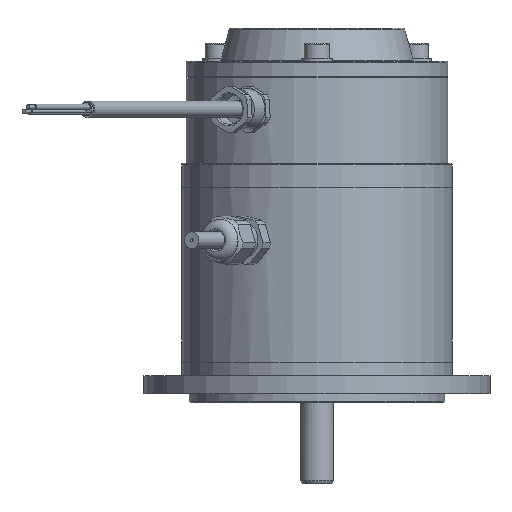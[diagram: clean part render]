
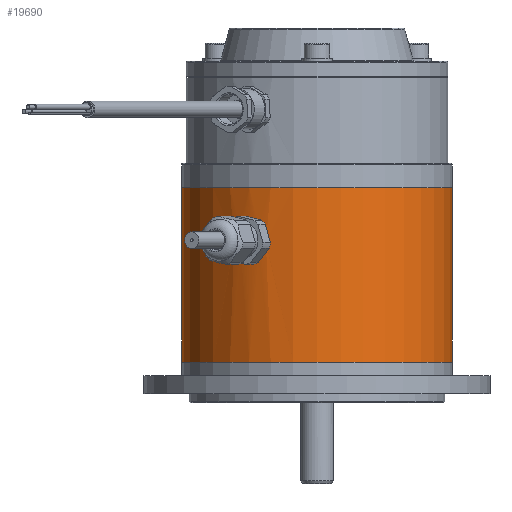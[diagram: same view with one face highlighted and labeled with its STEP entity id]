
A CAD part, left-side view. The second image highlights one B-rep face of the part: STEP entity #19690.
In plain terms, the highlighted cylindrical face has radius 45 mm (diameter 90 mm), a full revolution.
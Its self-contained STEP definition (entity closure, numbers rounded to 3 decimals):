
#381=B_SPLINE_CURVE_WITH_KNOTS('',3,(#39688,#39689,#39690,#39691,#39692,
#39693,#39694,#39695,#39696,#39697,#39698,#39699,#39700,#39701,#39702,#39703,
#39704,#39705,#39706),.UNSPECIFIED.,.T.,.F.,(1,1,1,1,1,1,1,1,1,1,1,1,1,
1,1,1,1,1,1,1,1,1,1),(-0.007,-0.005,-0.002,
0.,0.002,0.005,0.007,0.01,
0.012,0.015,0.017,0.02,
0.022,0.024,0.027,0.029,
0.032,0.034,0.037,0.039,
0.042,0.044,0.046),.UNSPECIFIED.);
#2823=CYLINDRICAL_SURFACE('',#21226,45.);
#3832=ORIENTED_EDGE('',*,*,#8545,.F.);
#3833=ORIENTED_EDGE('',*,*,#8544,.T.);
#3834=ORIENTED_EDGE('',*,*,#8538,.F.);
#8538=EDGE_CURVE('',#14027,#14027,#381,.T.);
#8544=EDGE_CURVE('',#14033,#14033,#10940,.T.);
#8545=EDGE_CURVE('',#14034,#14034,#10941,.T.);
#10940=CIRCLE('',#21225,45.);
#10941=CIRCLE('',#21227,45.);
#12516=EDGE_LOOP('',(#3832));
#12517=EDGE_LOOP('',(#3833));
#12518=EDGE_LOOP('',(#3834));
#14027=VERTEX_POINT('',#39707);
#14033=VERTEX_POINT('',#39741);
#14034=VERTEX_POINT('',#39744);
#15730=FACE_BOUND('',#12516,.T.);
#15731=FACE_BOUND('',#12517,.T.);
#15732=FACE_BOUND('',#12518,.T.);
#19690=ADVANCED_FACE('',(#15730,#15731,#15732),#2823,.T.);
#21225=AXIS2_PLACEMENT_3D('',#39740,#24352,#24353);
#21226=AXIS2_PLACEMENT_3D('',#39742,#24354,#24355);
#21227=AXIS2_PLACEMENT_3D('',#39743,#24356,#24357);
#24352=DIRECTION('',(0.,0.,-1.));
#24353=DIRECTION('',(-0.5,-0.866,0.));
#24354=DIRECTION('',(0.,0.,-1.));
#24355=DIRECTION('',(-0.5,-0.866,0.));
#24356=DIRECTION('',(0.,0.,-1.));
#24357=DIRECTION('',(-0.5,-0.866,0.));
#39688=CARTESIAN_POINT('',(-41.595,17.179,24.534));
#39689=CARTESIAN_POINT('',(-41.78,16.715,27.002));
#39690=CARTESIAN_POINT('',(-41.596,17.177,29.458));
#39691=CARTESIAN_POINT('',(-41.05,18.465,31.535));
#39692=CARTESIAN_POINT('',(-40.159,20.348,32.923));
#39693=CARTESIAN_POINT('',(-38.993,22.508,33.413));
#39694=CARTESIAN_POINT('',(-37.704,24.6,32.925));
#39695=CARTESIAN_POINT('',(-36.517,26.317,31.536));
#39696=CARTESIAN_POINT('',(-35.673,27.435,29.457));
#39697=CARTESIAN_POINT('',(-35.366,27.824,27.002));
#39698=CARTESIAN_POINT('',(-35.672,27.437,24.547));
#39699=CARTESIAN_POINT('',(-36.513,26.321,22.47));
#39700=CARTESIAN_POINT('',(-37.698,24.61,21.079));
#39701=CARTESIAN_POINT('',(-38.989,22.517,20.586));
#39702=CARTESIAN_POINT('',(-40.157,20.352,21.075));
#39703=CARTESIAN_POINT('',(-41.048,18.468,22.464));
#39704=CARTESIAN_POINT('',(-41.595,17.179,24.534));
#39705=CARTESIAN_POINT('',(-41.78,16.715,27.002));
#39706=CARTESIAN_POINT('',(-41.596,17.177,29.458));
#39707=CARTESIAN_POINT('',(-41.718,16.869,27.));
#39740=CARTESIAN_POINT('',(0.,0.,44.5));
#39741=CARTESIAN_POINT('',(-22.5,-38.971,44.5));
#39742=CARTESIAN_POINT('',(0.,0.,40.5));
#39743=CARTESIAN_POINT('',(0.,0.,-13.5));
#39744=CARTESIAN_POINT('',(-22.5,-38.971,-13.5));
